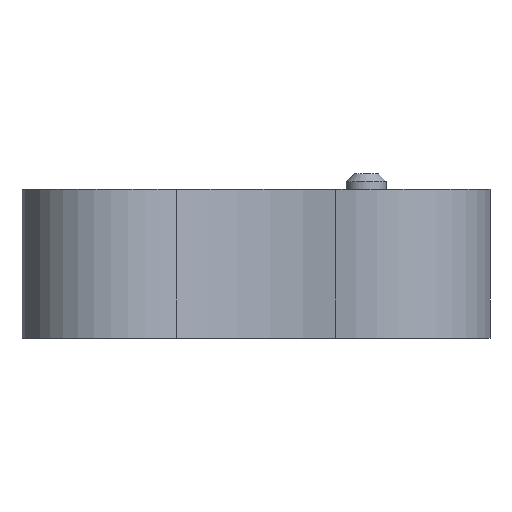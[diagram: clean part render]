
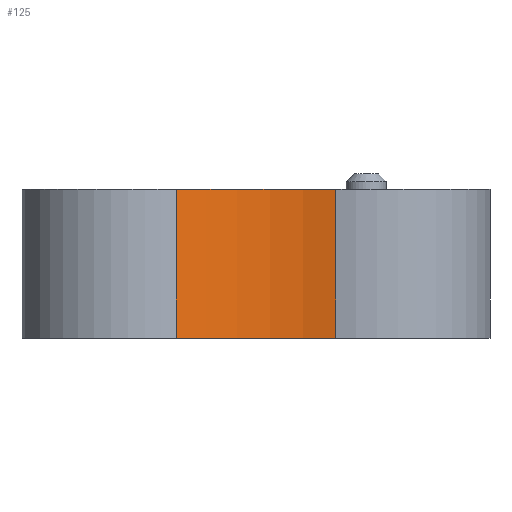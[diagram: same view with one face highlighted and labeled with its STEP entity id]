
A CAD part, left-side view. The second image highlights one B-rep face of the part: STEP entity #125.
In plain terms, the highlighted cylindrical face has radius 13.365 mm (diameter 26.73 mm), a partial arc.
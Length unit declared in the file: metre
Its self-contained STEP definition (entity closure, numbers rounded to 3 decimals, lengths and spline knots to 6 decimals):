
#125 = ADVANCED_FACE( 'NONE', ( #267 ), #268, .F. );
#267 = FACE_OUTER_BOUND( '', #445, .T. );
#268 = CYLINDRICAL_SURFACE( '', #446, 0.013365 );
#445 = EDGE_LOOP( '', ( #774, #775, #776, #777 ) );
#446 = AXIS2_PLACEMENT_3D( '', #778, #779, #780 );
#774 = ORIENTED_EDGE( '', *, *, #876, .T. );
#775 = ORIENTED_EDGE( '', *, *, #941, .T. );
#776 = ORIENTED_EDGE( '', *, *, #973, .F. );
#777 = ORIENTED_EDGE( '', *, *, #984, .F. );
#778 = CARTESIAN_POINT( '', ( -0.032468, 0.00517, 0.00516 ) );
#779 = DIRECTION( '', ( 0., 0., -1. ) );
#780 = DIRECTION( '', ( 1., 0., 0. ) );
#876 = EDGE_CURVE( 'NONE', #1037, #1035, #1038, .T. );
#941 = EDGE_CURVE( 'NONE', #1035, #1140, #1142, .T. );
#973 = EDGE_CURVE( 'NONE', #1185, #1140, #1187, .T. );
#984 = EDGE_CURVE( 'NONE', #1037, #1185, #1198, .T. );
#1035 = VERTEX_POINT( 'NONE', #1353 );
#1037 = VERTEX_POINT( 'NONE', #1355 );
#1038 = CIRCLE( '', #1356, 0.013365 );
#1140 = VERTEX_POINT( 'NONE', #1484 );
#1142 = LINE( '', #1486, #1487 );
#1185 = VERTEX_POINT( 'NONE', #1548 );
#1187 = CIRCLE( '', #1550, 0.013365 );
#1198 = LINE( '', #1566, #1567 );
#1353 = CARTESIAN_POINT( '', ( -0.0195, 0.001936, 0.00516 ) );
#1355 = CARTESIAN_POINT( '', ( -0.021052, 0.01212, 0.00516 ) );
#1356 = AXIS2_PLACEMENT_3D( '', #1609, #1610, #1611 );
#1484 = CARTESIAN_POINT( '', ( -0.0195, 0.001936, 0.01466 ) );
#1486 = CARTESIAN_POINT( '', ( -0.0195, 0.001936, 0.00516 ) );
#1487 = VECTOR( '', #1710, 1. );
#1548 = CARTESIAN_POINT( '', ( -0.021052, 0.01212, 0.01466 ) );
#1550 = AXIS2_PLACEMENT_3D( '', #1747, #1748, #1749 );
#1566 = CARTESIAN_POINT( '', ( -0.021052, 0.01212, 0.00516 ) );
#1567 = VECTOR( '', #1758, 1. );
#1609 = CARTESIAN_POINT( '', ( -0.032468, 0.00517, 0.00516 ) );
#1610 = DIRECTION( '', ( 0., 0., -1. ) );
#1611 = DIRECTION( '', ( -1., 0., 0. ) );
#1710 = DIRECTION( '', ( 0., 0., 1. ) );
#1747 = CARTESIAN_POINT( '', ( -0.032468, 0.00517, 0.01466 ) );
#1748 = DIRECTION( '', ( 0., 0., -1. ) );
#1749 = DIRECTION( '', ( 1., 0., 0. ) );
#1758 = DIRECTION( '', ( 0., 0., 1. ) );
